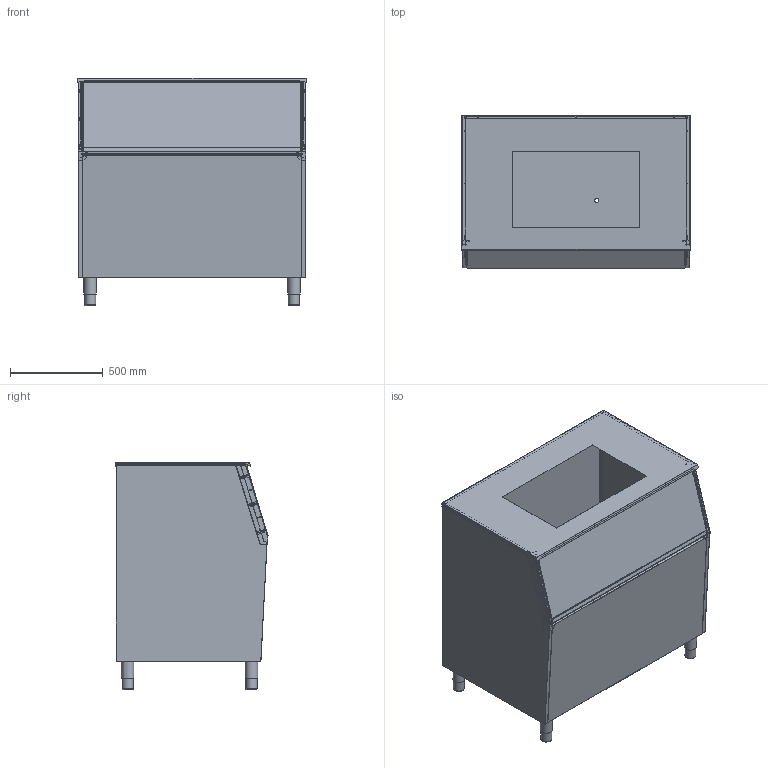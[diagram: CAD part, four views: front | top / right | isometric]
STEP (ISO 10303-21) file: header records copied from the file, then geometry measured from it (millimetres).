
FILE_DESCRIPTION(/* description */ ('Unknown'),/* implementation_level */ '2;1');
FILE_NAME(/* name */ 'S900',/* time_stamp */ '2018-04-24T09:20:02+02:00',/* author */ ('Unknown'),/* organization */ ('Unknown'),/* preprocessor_version */ 'ST-DEVELOPER v16.7',/* originating_system */ 'DEX',/* authorisation */ $);
FILE_SCHEMA (('CONFIG_CONTROL_DESIGN'));
Products named in the file (14): S900; 42-6+6644; 42-12+7700; 42-6+6643; 42-21; 42-80+7673_oa_0; 42-79+7641_oa_1; 42-2+6730; 42-4+6963; 42-2+6731; 42-5+6965; 42-3+6961; 42-9+31042-R01_oa_2; 42-7+31041-R01
Assembly tree (16 placements, depth 4):
  S900
    42-6+6644
    42-12+7700
    42-6+6643
    42-21  x4
    42-80+7673_oa_0
      42-79+7641_oa_1
        42-2+6730
        42-4+6963
        42-2+6731
        42-5+6965
        42-3+6961
    42-9+31042-R01_oa_2
      42-7+31041-R01
Bounding box: 1228.6 x 819 x 1224.3 mm (x, y, z)
Volume: 7586037.6 mm3; surface area: 13621474.9 mm2
Topology: 17 solids, 17 shells, 1889 faces, 4983 edges, 3036 vertices
Faces by surface type: plane 879, cylinder 715, bspline 201, sphere 78, cone 12, torus 4
Full cylindrical faces by diameter (mm): 2.7 x27, 4 x8, 4.25 x44, 5 x8, 10 x4, 21 x4, 22 x3, 60 x5, 67 x4
Entity records: 59752 total; most frequent: CARTESIAN_POINT 14558, ORIENTED_EDGE 9366, DIRECTION 9187, EDGE_CURVE 4683, AXIS2_PLACEMENT_3D 3141, VERTEX_POINT 2943, LINE 2905, VECTOR 2905
